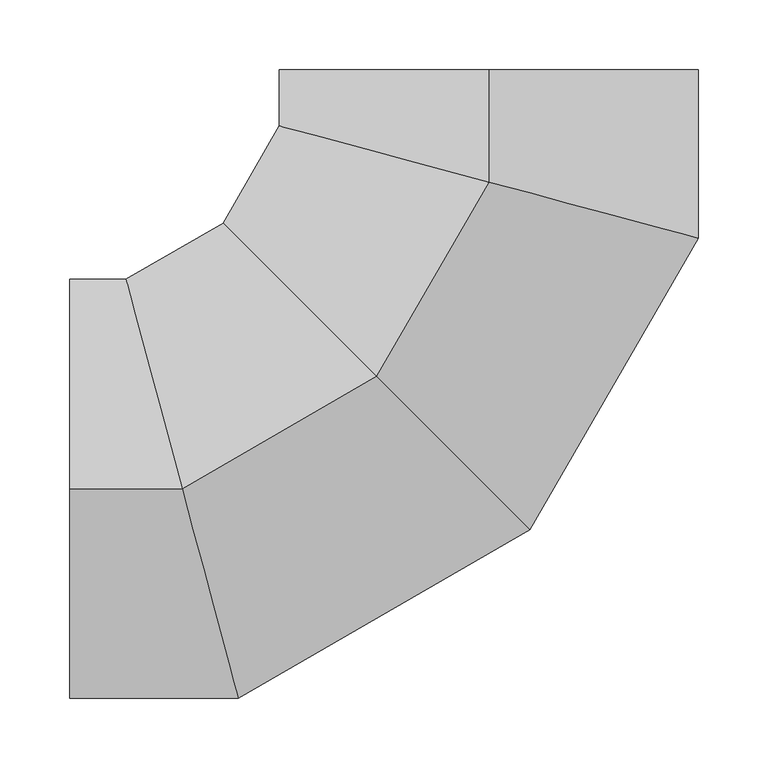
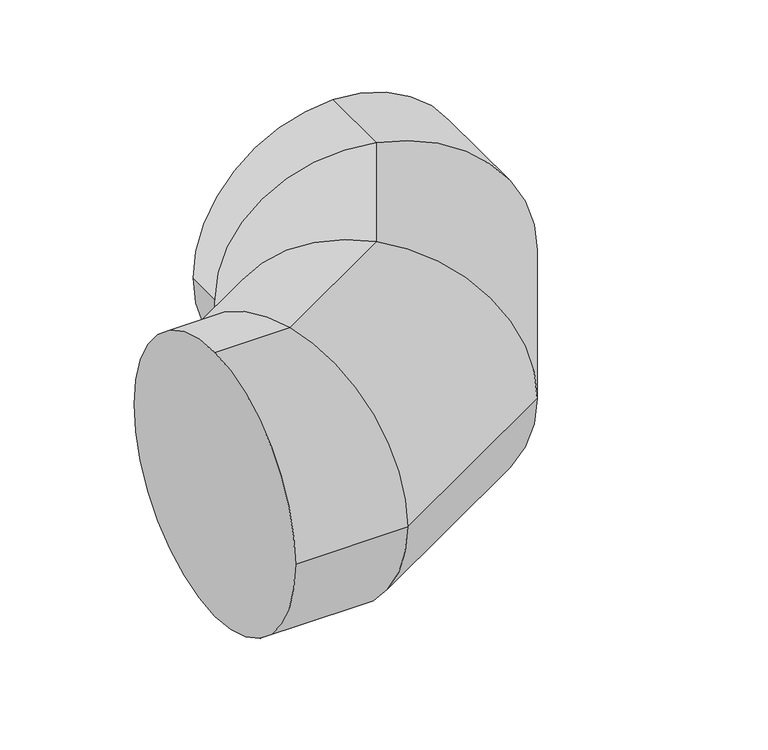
"""IFC4 building model written with IfcOpenShell, lengths in millimetres: duct fitting geometry, BL_ОтводВоздуховодов_Круглый : Ниппельное соединение."""

from ifc_helpers import new_model, si_unit, frame, origin, place, context, project, spatial, circle_curve, ellipse_curve, source, transform, mapped, element, save
from ifc_brep_helpers import plane_surface, cylinder_surface, advanced_brep


def duct_fitting_46974226(model_context):
    return source(origin(), model_context, "Body", "AdvancedBrep", [
        advanced_brep(
        [(-300.0, 0.0, 150.0), (-300.0, 150.0, 0.0), (-300.0, 0.0, -150.0), (-300.0, -150.0, 0.0), (-219.6152423, 0.0, 150.0), (-259.8076211, 150.0, 0.0), (-219.6152423, 0.0, -150.0), (-179.4228634, -150.0, 0.0), (-80.3847577, 80.3847577, 150.0), (-190.1923789, 190.1923789, 0.0), (-80.3847577, 80.3847577, -150.0), (29.4228634, -29.4228634, 0.0), (0.0, 219.6152423, 150.0), (-150.0, 259.8076211, 0.0), (0.0, 219.6152423, -150.0), (150.0, 179.4228634, 0.0), (0.0, 300.0, 150.0), (150.0, 300.0, 0.0), (0.0, 300.0, -150.0), (-150.0, 300.0, 0.0)],
        [
            (0, 1, circle_curve(frame((-300.0, 0.0, 0.0), z_axis=(-1.0, 0.0, 0.0), x_axis=(0.0, 1.0, 0.0)), 150.0)),
            (1, 2, circle_curve(frame((-300.0, 0.0, 0.0), z_axis=(-1.0, 0.0, 0.0), x_axis=(0.0, 1.0, 0.0)), 150.0)),
            (2, 3, circle_curve(frame((-300.0, 0.0, 0.0), z_axis=(-1.0, 0.0, 0.0), x_axis=(0.0, 1.0, 0.0)), 150.0)),
            (3, 0, circle_curve(frame((-300.0, 0.0, 0.0), z_axis=(-1.0, 0.0, 0.0), x_axis=(0.0, 1.0, 0.0)), 150.0)),
            (0, 4),
            (4, 5, ellipse_curve(frame((-219.6152423, 0.0, 0.0), z_axis=(-0.9659258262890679, -0.2588190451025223, 0.0), x_axis=(-0.25881904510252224, 0.9659258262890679, 0.0)), 155.2914271, 150.0)),
            (5, 1),
            (5, 6, ellipse_curve(frame((-219.6152423, 0.0, 0.0), z_axis=(-0.9659258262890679, -0.2588190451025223, 0.0), x_axis=(-0.25881904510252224, 0.9659258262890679, 0.0)), 155.2914271, 150.0)),
            (6, 2),
            (6, 7, ellipse_curve(frame((-219.6152423, 0.0, 0.0), z_axis=(-0.9659258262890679, -0.2588190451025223, 0.0), x_axis=(-0.25881904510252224, 0.9659258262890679, 0.0)), 155.2914271, 150.0)),
            (7, 3),
            (7, 4, ellipse_curve(frame((-219.6152423, 0.0, 0.0), z_axis=(-0.9659258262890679, -0.2588190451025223, 0.0), x_axis=(-0.25881904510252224, 0.9659258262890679, 0.0)), 155.2914271, 150.0)),
            (4, 8),
            (8, 9, ellipse_curve(frame((-80.3847577, 80.3847577, 0.0), z_axis=(-0.7071067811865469, -0.7071067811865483, 0.0), x_axis=(-0.7071067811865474, 0.7071067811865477, 0.0)), 155.2914271, 150.0)),
            (9, 5),
            (9, 10, ellipse_curve(frame((-80.3847577, 80.3847577, 0.0), z_axis=(-0.7071067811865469, -0.7071067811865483, 0.0), x_axis=(-0.7071067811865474, 0.7071067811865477, 0.0)), 155.2914271, 150.0)),
            (10, 6),
            (10, 11, ellipse_curve(frame((-80.3847577, 80.3847577, 0.0), z_axis=(-0.7071067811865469, -0.7071067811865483, 0.0), x_axis=(-0.7071067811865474, 0.7071067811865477, 0.0)), 155.2914271, 150.0)),
            (11, 7),
            (11, 8, ellipse_curve(frame((-80.3847577, 80.3847577, 0.0), z_axis=(-0.7071067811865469, -0.7071067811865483, 0.0), x_axis=(-0.7071067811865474, 0.7071067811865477, 0.0)), 155.2914271, 150.0)),
            (8, 12),
            (12, 13, ellipse_curve(frame((0.0, 219.6152423, 0.0), z_axis=(-0.2588190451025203, -0.9659258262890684, 0.0), x_axis=(-0.9659258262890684, 0.25881904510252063, 0.0)), 155.2914271, 150.0)),
            (13, 9),
            (13, 14, ellipse_curve(frame((0.0, 219.6152423, 0.0), z_axis=(-0.2588190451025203, -0.9659258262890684, 0.0), x_axis=(-0.9659258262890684, 0.25881904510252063, 0.0)), 155.2914271, 150.0)),
            (14, 10),
            (14, 15, ellipse_curve(frame((0.0, 219.6152423, 0.0), z_axis=(-0.2588190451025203, -0.9659258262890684, 0.0), x_axis=(-0.9659258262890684, 0.25881904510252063, 0.0)), 155.2914271, 150.0)),
            (15, 11),
            (15, 12, ellipse_curve(frame((0.0, 219.6152423, 0.0), z_axis=(-0.2588190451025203, -0.9659258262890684, 0.0), x_axis=(-0.9659258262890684, 0.25881904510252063, 0.0)), 155.2914271, 150.0)),
            (16, 17, circle_curve(frame((0.0, 300.0, 0.0), z_axis=(0.0, 1.0, 0.0), x_axis=(-1.0, 0.0, 0.0)), 150.0)),
            (17, 18, circle_curve(frame((0.0, 300.0, 0.0), z_axis=(0.0, 1.0, 0.0), x_axis=(-1.0, 0.0, 0.0)), 150.0)),
            (18, 19, circle_curve(frame((0.0, 300.0, 0.0), z_axis=(0.0, 1.0, 0.0), x_axis=(-1.0, 0.0, 0.0)), 150.0)),
            (19, 16, circle_curve(frame((0.0, 300.0, 0.0), z_axis=(0.0, 1.0, 0.0), x_axis=(-1.0, 0.0, 0.0)), 150.0)),
            (12, 16),
            (19, 13),
            (18, 14),
            (17, 15),
        ],
        [
            plane_surface(frame((-300.0, 0.0, 0.0), z_axis=(-1.0, 0.0, 0.0), x_axis=(0.0, 0.0, 1.0))),
            cylinder_surface(frame((-300.0, 0.0, 0.0), z_axis=(-1.0, 0.0, 0.0), x_axis=(0.0, 1.0, 0.0)), 150.0),
            cylinder_surface(frame((-219.6152423, 0.0, 0.0), z_axis=(-0.8660254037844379, -0.5000000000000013, 0.0), x_axis=(-0.5000000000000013, 0.8660254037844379, 0.0)), 150.0),
            cylinder_surface(frame((-80.3847577, 80.3847577, 0.0), z_axis=(-0.49999999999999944, -0.866025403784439, 0.0), x_axis=(-0.866025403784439, 0.49999999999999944, 0.0)), 150.0),
            plane_surface(frame((0.0, 300.0, 0.0), z_axis=(0.0, 1.0, 0.0), x_axis=(0.0, 0.0, 1.0))),
            cylinder_surface(frame((0.0, 219.6152423, 0.0), z_axis=(0.0, -1.0, 0.0), x_axis=(-1.0, 0.0, 0.0)), 150.0),
        ],
        [
            (0, [[1, 2, 3, 4]]),
            (1, [[-1, 5, 6, 7]]),
            (1, [[-2, -7, 8, 9]]),
            (1, [[-3, -9, 10, 11]]),
            (1, [[-4, -11, 12, -5]]),
            (2, [[-6, 13, 14, 15]]),
            (2, [[-8, -15, 16, 17]]),
            (2, [[-10, -17, 18, 19]]),
            (2, [[-12, -19, 20, -13]]),
            (3, [[-14, 21, 22, 23]]),
            (3, [[-16, -23, 24, 25]]),
            (3, [[-18, -25, 26, 27]]),
            (3, [[-20, -27, 28, -21]]),
            (4, [[29, 30, 31, 32]]),
            (5, [[-22, 33, -32, 34]]),
            (5, [[-24, -34, -31, 35]]),
            (5, [[-26, -35, -30, 36]]),
            (5, [[-28, -36, -29, -33]]),
        ],
    ),
    ])


if __name__ == "__main__":
    model = new_model("IFC4")
    model_context = context("Model", 3, world=origin())
    ifc_project = project(units=[si_unit("LENGTHUNIT", "METRE", prefix="MILLI")], contexts=[model_context])
    site = spatial("IfcSite", under=ifc_project)
    building = spatial("IfcBuilding", under=site)
    placement = place(None, origin())
    duct_fitting_shape = duct_fitting_46974226(model_context)
    element("IfcDuctFitting", 1, ObjectType="BL_ОтводВоздуховодов_Круглый : Ниппельное соединение", at=placement, inside=building, context=model_context, shape_type="MappedRepresentation", body=[
        mapped(duct_fitting_shape, transform((0.0, 0.0, 0.0), x_axis=(1.0, 0.0, 0.0), y_axis=(0.0, 1.0, 0.0), z_axis=(0.0, 0.0, 1.0))),
    ])
    save(model, "model.ifc")
